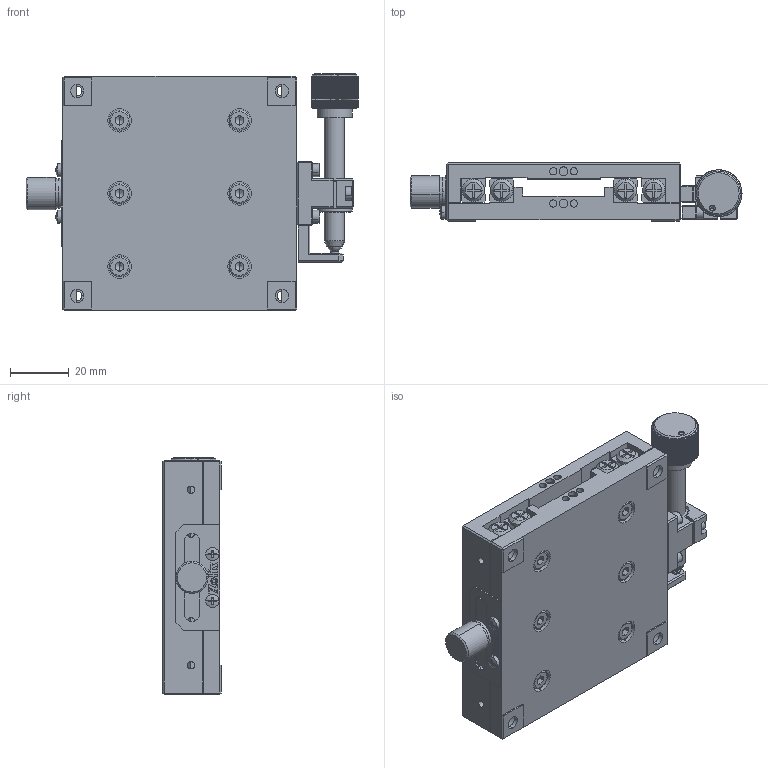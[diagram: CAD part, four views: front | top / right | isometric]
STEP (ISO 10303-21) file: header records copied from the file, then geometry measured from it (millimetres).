
FILE_DESCRIPTION (( 'STEP AP203' ), '1' );
FILE_NAME ('AK25-8020SR.step', '2019-05-08T06:33:51', ( '' ), ( '' ), 'SwSTEP 2.0', 'SolidWorks 2017', '' );
FILE_SCHEMA (( 'CONFIG_CONTROL_DESIGN' ));
Length unit declared in the file: millimetre
Products named in the file (1): AK25-8020SR
Bounding box: 113.5 x 20 x 81 mm (x, y, z)
Surface area: 47690.4 mm2 (no closed solid volume)
Topology: 0 solids, 37 shells, 1266 faces, 3820 edges, 2482 vertices
Faces by surface type: plane 762, cylinder 296, cone 168, torus 34, sphere 6
Entity records: 42813 total; most frequent: CARTESIAN_POINT 9215, DIRECTION 6880, ORIENTED_EDGE 6674, EDGE_CURVE 3784, VERTEX_POINT 2482, AXIS2_PLACEMENT_3D 2367, LINE 2146, VECTOR 2146
